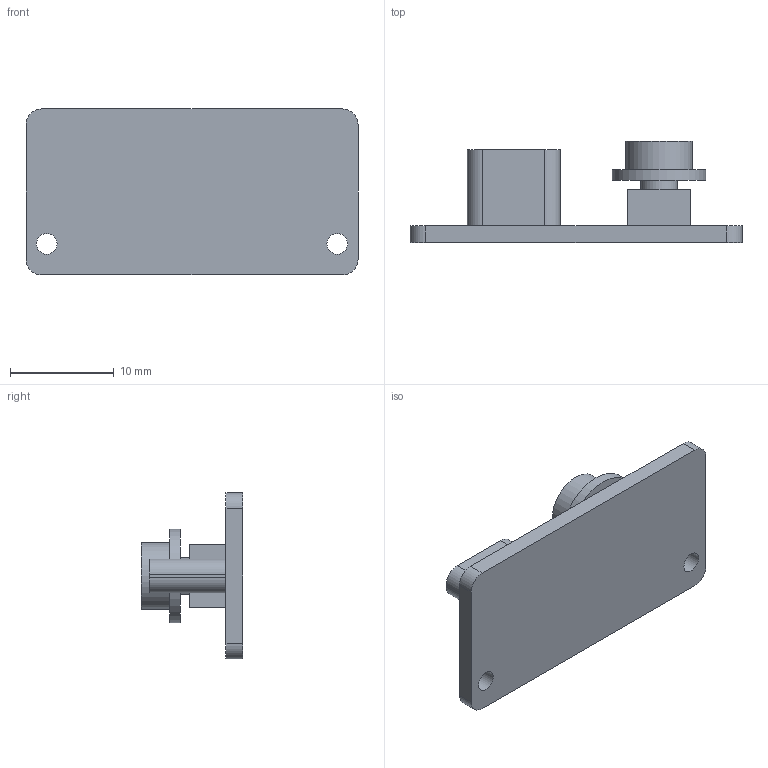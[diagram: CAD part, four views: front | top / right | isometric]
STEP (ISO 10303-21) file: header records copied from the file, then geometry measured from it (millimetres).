
FILE_DESCRIPTION(('Open CASCADE Model'),'2;1');
FILE_NAME('Open CASCADE Shape Model','2026-11-01T16:34:15',('Author'),( 'Open CASCADE'),'Open CASCADE STEP processor 8.0','build123d', 'Unknown');
FILE_SCHEMA(('AUTOMOTIVE_DESIGN { 1 0 10303 214 1 1 1 1 }'));
Length unit declared in the file: millimetre
Products named in the file (1): SOLID
Bounding box: 32 x 9.75 x 16 mm (x, y, z)
Volume: 1194.2 mm3; surface area: 1831.3 mm2
Topology: 1 solids, 1 shells, 46 faces, 111 edges, 74 vertices
Faces by surface type: plane 29, cylinder 17
Full cylindrical faces by diameter (mm): 2 x2, 3.5 x1, 6.4 x1, 9 x1
Entity records: 2832 total; most frequent: CARTESIAN_POINT 522, DIRECTION 443, LINE 257, VECTOR 257, ORIENTED_EDGE 222, PCURVE 222, DEFINITIONAL_REPRESENTATION 222, EDGE_CURVE 111
